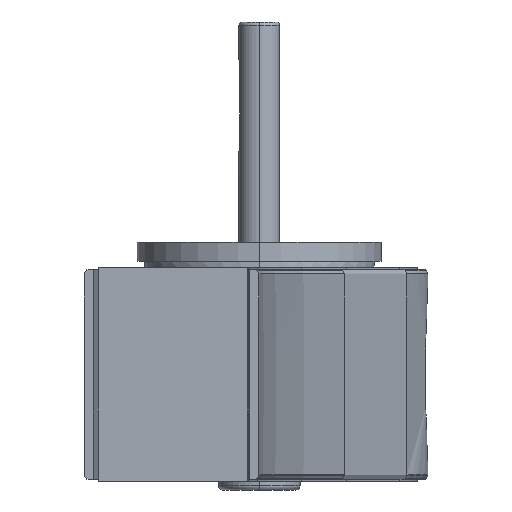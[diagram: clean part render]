
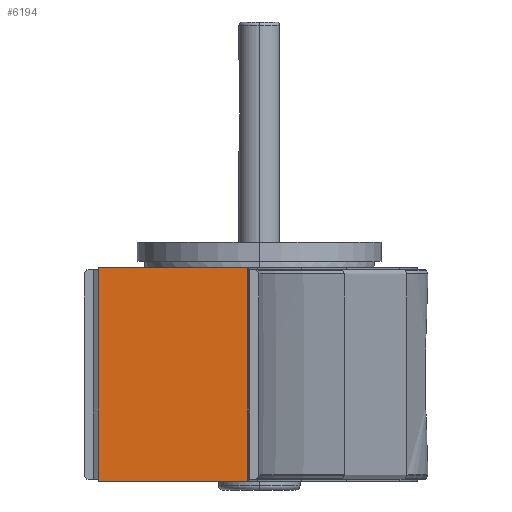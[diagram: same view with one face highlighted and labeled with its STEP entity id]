
A CAD part, left-side view. The second image highlights one B-rep face of the part: STEP entity #6194.
In plain terms, the highlighted planar face has unit normal (-1, 0, 0).
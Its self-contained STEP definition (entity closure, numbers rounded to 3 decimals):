
#97 = CARTESIAN_POINT ( 'NONE',  ( -247.767, 79.135, 0. ) ) ;
#119 = CARTESIAN_POINT ( 'NONE',  ( -247.767, 5.935, -105. ) ) ;
#198 = ORIENTED_EDGE ( 'NONE', *, *, #6243, .F. ) ;
#482 = LINE ( 'NONE', #2090, #2856 ) ;
#530 = VERTEX_POINT ( 'NONE', #7547 ) ;
#793 = ORIENTED_EDGE ( 'NONE', *, *, #8184, .F. ) ;
#881 = LINE ( 'NONE', #119, #8714 ) ;
#907 = VERTEX_POINT ( 'NONE', #97 ) ;
#1341 = AXIS2_PLACEMENT_3D ( 'NONE', #6288, #8677, #4768 ) ;
#2090 = CARTESIAN_POINT ( 'NONE',  ( -247.767, 79.135, -105. ) ) ;
#2389 = PLANE ( 'NONE',  #1341 ) ;
#2536 = CARTESIAN_POINT ( 'NONE',  ( -247.767, 5.935, 0. ) ) ;
#2856 = VECTOR ( 'NONE', #6971, 1000. ) ;
#3345 = ORIENTED_EDGE ( 'NONE', *, *, #4290, .T. ) ;
#3608 = VECTOR ( 'NONE', #4736, 1000. ) ;
#4108 = LINE ( 'NONE', #7136, #3608 ) ;
#4290 = EDGE_CURVE ( 'NONE', #5071, #5130, #881, .T. ) ;
#4361 = FACE_OUTER_BOUND ( 'NONE', #6929, .T. ) ;
#4736 = DIRECTION ( 'NONE',  ( 0., -1., 0. ) ) ;
#4768 = DIRECTION ( 'NONE',  ( 0., -1., 0. ) ) ;
#5071 = VERTEX_POINT ( 'NONE', #9325 ) ;
#5130 = VERTEX_POINT ( 'NONE', #2536 ) ;
#6057 = ORIENTED_EDGE ( 'NONE', *, *, #9393, .T. ) ;
#6185 = VECTOR ( 'NONE', #9445, 1000. ) ;
#6194 = ADVANCED_FACE ( 'NONE', ( #4361 ), #2389, .T. ) ;
#6243 = EDGE_CURVE ( 'NONE', #907, #5130, #4108, .T. ) ;
#6288 = CARTESIAN_POINT ( 'NONE',  ( -247.767, 79.135, -105. ) ) ;
#6929 = EDGE_LOOP ( 'NONE', ( #198, #793, #6057, #3345 ) ) ;
#6971 = DIRECTION ( 'NONE',  ( 0., -1., 0. ) ) ;
#7047 = DIRECTION ( 'NONE',  ( 0., 0., 1. ) ) ;
#7136 = CARTESIAN_POINT ( 'NONE',  ( -247.767, 79.135, 0. ) ) ;
#7547 = CARTESIAN_POINT ( 'NONE',  ( -247.767, 79.135, -105. ) ) ;
#8184 = EDGE_CURVE ( 'NONE', #530, #907, #8755, .T. ) ;
#8677 = DIRECTION ( 'NONE',  ( -1., 0., 0. ) ) ;
#8714 = VECTOR ( 'NONE', #7047, 1000. ) ;
#8755 = LINE ( 'NONE', #9345, #6185 ) ;
#9325 = CARTESIAN_POINT ( 'NONE',  ( -247.767, 5.935, -105. ) ) ;
#9345 = CARTESIAN_POINT ( 'NONE',  ( -247.767, 79.135, -105. ) ) ;
#9393 = EDGE_CURVE ( 'NONE', #530, #5071, #482, .T. ) ;
#9445 = DIRECTION ( 'NONE',  ( 0., 0., 1. ) ) ;
